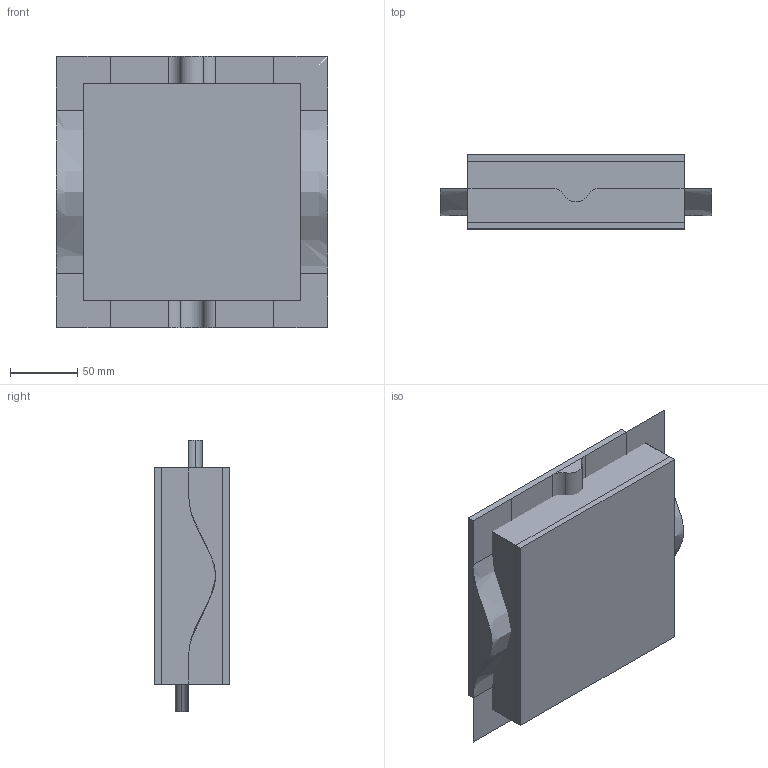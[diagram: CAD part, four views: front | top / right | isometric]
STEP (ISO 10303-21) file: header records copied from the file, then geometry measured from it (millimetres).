
FILE_DESCRIPTION(('CATIA V5 STEP Exchange'),'2;1');
FILE_NAME('C:\_Andres\UNIVERSIDAD\IQS\ASIGNATURAS\DAO\EXF\EXF-16172c\2inicio\Pares_Guanybens_Ej02_v21.stp','2017-03-05T15:45:30+00:00',('none'),('none'),'CATIA Version 5-6 Release 2014 SP1 HF18','CATIA V5 STEP AP203','none');
FILE_SCHEMA(('CONFIG_CONTROL_DESIGN'));
Length unit declared in the file: millimetre
Products named in the file (1): Pares_Guanybens_Ej02_v21
Bounding box: 201 x 55 x 201 mm (x, y, z)
Surface area: 260800.1 mm2
Topology: 3 solids, 10 shells, 72 faces, 205 edges, 150 vertices
Faces by surface type: bspline 32, plane 32, cylinder 6, extrusion 2
Entity records: 6113 total; most frequent: CARTESIAN_POINT 4796, ORIENTED_EDGE 288, DIRECTION 151, EDGE_CURVE 132, VERTEX_POINT 84, VECTOR 77, LINE 75, ADVANCED_FACE 72
